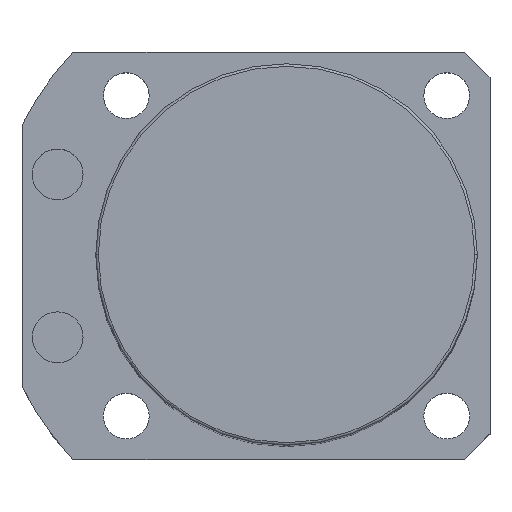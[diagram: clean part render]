
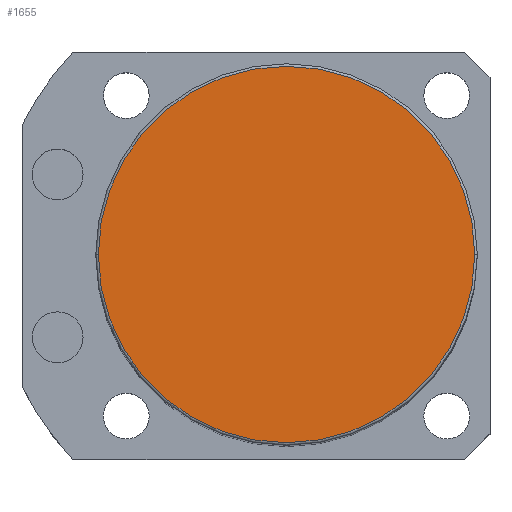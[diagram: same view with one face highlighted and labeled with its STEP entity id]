
A CAD part, top view. The second image highlights one B-rep face of the part: STEP entity #1655.
In plain terms, the highlighted planar face has unit normal (0, 0, 1).
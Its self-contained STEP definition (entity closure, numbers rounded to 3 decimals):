
#108 = EDGE_CURVE ( 'NONE', #2856, #1908, #426, .T. ) ;
#426 = CIRCLE ( 'NONE', #664, 37. ) ;
#481 = DIRECTION ( 'NONE',  ( 0., 0., 1. ) ) ;
#664 = AXIS2_PLACEMENT_3D ( 'NONE', #2475, #2269, #940 ) ;
#810 = DIRECTION ( 'NONE',  ( 0., 0., 1. ) ) ;
#842 = DIRECTION ( 'NONE',  ( 1., 0., 0. ) ) ;
#940 = DIRECTION ( 'NONE',  ( 1., 0., 0. ) ) ;
#962 = CARTESIAN_POINT ( 'NONE',  ( -37., 0., 170.5 ) ) ;
#1141 = EDGE_LOOP ( 'NONE', ( #1352, #2004 ) ) ;
#1187 = FACE_OUTER_BOUND ( 'NONE', #1141, .T. ) ;
#1264 = AXIS2_PLACEMENT_3D ( 'NONE', #1996, #481, #2465 ) ;
#1270 = CARTESIAN_POINT ( 'NONE',  ( 0., 0., 170.5 ) ) ;
#1346 = CIRCLE ( 'NONE', #1992, 37. ) ;
#1352 = ORIENTED_EDGE ( 'NONE', *, *, #1490, .T. ) ;
#1490 = EDGE_CURVE ( 'NONE', #1908, #2856, #1346, .T. ) ;
#1655 = ADVANCED_FACE ( 'NONE', ( #1187 ), #2442, .T. ) ;
#1908 = VERTEX_POINT ( 'NONE', #2795 ) ;
#1992 = AXIS2_PLACEMENT_3D ( 'NONE', #1270, #810, #842 ) ;
#1996 = CARTESIAN_POINT ( 'NONE',  ( 0., 0., 170.5 ) ) ;
#2004 = ORIENTED_EDGE ( 'NONE', *, *, #108, .T. ) ;
#2269 = DIRECTION ( 'NONE',  ( 0., 0., 1. ) ) ;
#2442 = PLANE ( 'NONE',  #1264 ) ;
#2465 = DIRECTION ( 'NONE',  ( 1., 0., 0. ) ) ;
#2475 = CARTESIAN_POINT ( 'NONE',  ( 0., 0., 170.5 ) ) ;
#2795 = CARTESIAN_POINT ( 'NONE',  ( 37., 0., 170.5 ) ) ;
#2856 = VERTEX_POINT ( 'NONE', #962 ) ;
